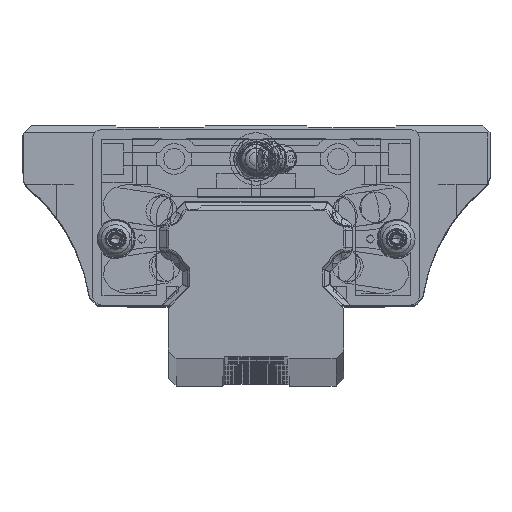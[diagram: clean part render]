
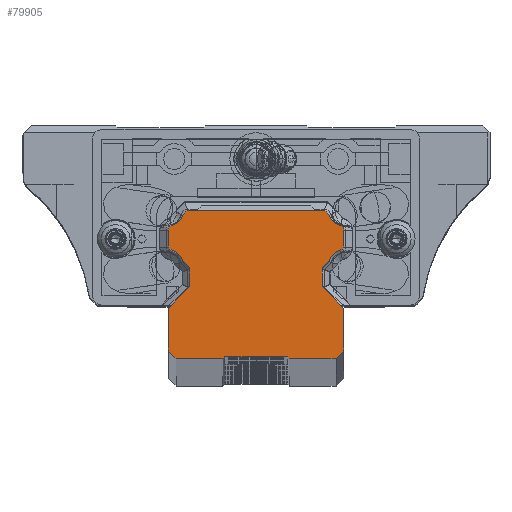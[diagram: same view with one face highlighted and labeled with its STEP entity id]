
A CAD part, top view. The second image highlights one B-rep face of the part: STEP entity #79905.
In plain terms, the highlighted planar face has unit normal (0, 0, 1).
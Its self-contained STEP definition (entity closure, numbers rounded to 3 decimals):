
#74661=DIRECTION('',(0.,-1.,0.));
#74662=VECTOR('',#74661,4.85);
#74663=CARTESIAN_POINT('',(-17.,-7.65,500.));
#74664=LINE('',#74663,#74662);
#74673=DIRECTION('',(0.,-1.,0.));
#74674=VECTOR('',#74673,11.);
#74675=CARTESIAN_POINT('',(-22.5,-18.,500.));
#74676=LINE('',#74675,#74674);
#74685=DIRECTION('',(1.,0.,0.));
#74686=VECTOR('',#74685,12.);
#74687=CARTESIAN_POINT('',(-20.5,-31.,500.));
#74688=LINE('',#74687,#74686);
#76061=DIRECTION('',(0.,-1.,0.));
#76062=VECTOR('',#76061,3.955);
#76063=CARTESIAN_POINT('',(-22.5,1.977,500.));
#76064=LINE('',#76063,#76062);
#76197=DIRECTION('',(-0.707,0.707,0.));
#76198=VECTOR('',#76197,2.29);
#76199=CARTESIAN_POINT('',(-17.,-7.65,500.));
#76200=LINE('',#76199,#76198);
#76201=CARTESIAN_POINT('',(-22.664,-7.164,500.));
#76202=DIRECTION('',(0.,0.,1.));
#76203=DIRECTION('',(0.963,0.27,0.));
#76204=AXIS2_PLACEMENT_3D('',#76201,#76202,#76203);
#76206=CARTESIAN_POINT('',(-21.35,-1.977,500.));
#76207=DIRECTION('',(0.,0.,-1.));
#76208=DIRECTION('',(-0.246,-0.969,0.));
#76209=AXIS2_PLACEMENT_3D('',#76206,#76207,#76208);
#76211=CARTESIAN_POINT('',(-21.35,1.977,500.));
#76212=DIRECTION('',(0.,0.,-1.));
#76213=DIRECTION('',(-1.,0.,0.));
#76214=AXIS2_PLACEMENT_3D('',#76211,#76212,#76213);
#76216=CARTESIAN_POINT('',(-22.664,7.164,500.));
#76217=DIRECTION('',(0.,0.,1.));
#76218=DIRECTION('',(0.246,-0.969,0.));
#76219=AXIS2_PLACEMENT_3D('',#76216,#76217,#76218);
#76221=DIRECTION('',(0.707,0.707,0.));
#76222=VECTOR('',#76221,1.371);
#76223=CARTESIAN_POINT('',(-18.619,6.031,500.));
#76224=LINE('',#76223,#76222);
#76225=DIRECTION('',(1.,0.,0.));
#76226=VECTOR('',#76225,35.3);
#76227=CARTESIAN_POINT('',(-17.65,7.,500.));
#76228=LINE('',#76227,#76226);
#76229=DIRECTION('',(0.707,-0.707,0.));
#76230=VECTOR('',#76229,1.371);
#76231=CARTESIAN_POINT('',(17.65,7.,500.));
#76232=LINE('',#76231,#76230);
#76233=CARTESIAN_POINT('',(22.664,7.164,500.));
#76234=DIRECTION('',(0.,0.,1.));
#76235=DIRECTION('',(-0.963,-0.27,0.));
#76236=AXIS2_PLACEMENT_3D('',#76233,#76234,#76235);
#76238=CARTESIAN_POINT('',(21.35,1.977,500.));
#76239=DIRECTION('',(0.,0.,-1.));
#76240=DIRECTION('',(0.246,0.969,0.));
#76241=AXIS2_PLACEMENT_3D('',#76238,#76239,#76240);
#76243=CARTESIAN_POINT('',(21.35,-1.977,500.));
#76244=DIRECTION('',(0.,0.,-1.));
#76245=DIRECTION('',(1.,0.,0.));
#76246=AXIS2_PLACEMENT_3D('',#76243,#76244,#76245);
#76248=CARTESIAN_POINT('',(22.664,-7.164,500.));
#76249=DIRECTION('',(0.,0.,1.));
#76250=DIRECTION('',(-0.246,0.969,0.));
#76251=AXIS2_PLACEMENT_3D('',#76248,#76249,#76250);
#76253=DIRECTION('',(-0.707,-0.707,0.));
#76254=VECTOR('',#76253,2.29);
#76255=CARTESIAN_POINT('',(18.619,-6.031,500.));
#76256=LINE('',#76255,#76254);
#76257=DIRECTION('',(0.707,-0.707,0.));
#76258=VECTOR('',#76257,7.778);
#76259=CARTESIAN_POINT('',(17.,-12.5,500.));
#76260=LINE('',#76259,#76258);
#76261=DIRECTION('',(-0.707,-0.707,0.));
#76262=VECTOR('',#76261,2.828);
#76263=CARTESIAN_POINT('',(22.5,-29.,500.));
#76264=LINE('',#76263,#76262);
#76265=DIRECTION('',(-0.707,0.707,0.));
#76266=VECTOR('',#76265,0.707);
#76267=CARTESIAN_POINT('',(8.5,-31.,500.));
#76268=LINE('',#76267,#76266);
#76269=DIRECTION('',(-1.,0.,0.));
#76270=VECTOR('',#76269,16.);
#76271=CARTESIAN_POINT('',(8.,-30.5,500.));
#76272=LINE('',#76271,#76270);
#76273=DIRECTION('',(-0.707,-0.707,0.));
#76274=VECTOR('',#76273,0.707);
#76275=CARTESIAN_POINT('',(-8.,-30.5,500.));
#76276=LINE('',#76275,#76274);
#76277=DIRECTION('',(-0.707,0.707,0.));
#76278=VECTOR('',#76277,2.828);
#76279=CARTESIAN_POINT('',(-20.5,-31.,500.));
#76280=LINE('',#76279,#76278);
#76281=DIRECTION('',(0.707,0.707,0.));
#76282=VECTOR('',#76281,7.778);
#76283=CARTESIAN_POINT('',(-22.5,-18.,500.));
#76284=LINE('',#76283,#76282);
#76301=DIRECTION('',(0.,1.,0.));
#76302=VECTOR('',#76301,3.955);
#76303=CARTESIAN_POINT('',(22.5,-1.977,500.));
#76304=LINE('',#76303,#76302);
#76321=DIRECTION('',(0.,1.,0.));
#76322=VECTOR('',#76321,4.85);
#76323=CARTESIAN_POINT('',(17.,-12.5,500.));
#76324=LINE('',#76323,#76322);
#76333=DIRECTION('',(0.,1.,0.));
#76334=VECTOR('',#76333,11.);
#76335=CARTESIAN_POINT('',(22.5,-29.,500.));
#76336=LINE('',#76335,#76334);
#76345=DIRECTION('',(1.,0.,0.));
#76346=VECTOR('',#76345,12.);
#76347=CARTESIAN_POINT('',(8.5,-31.,500.));
#76348=LINE('',#76347,#76346);
#77357=CARTESIAN_POINT('',(-17.,-7.65,500.));
#77358=CARTESIAN_POINT('',(-18.619,-6.031,500.));
#77359=VERTEX_POINT('',#77357);
#77360=VERTEX_POINT('',#77358);
#77361=CARTESIAN_POINT('',(-21.632,-3.092,500.));
#77362=VERTEX_POINT('',#77361);
#77363=CARTESIAN_POINT('',(-22.5,-1.977,500.));
#77364=VERTEX_POINT('',#77363);
#77365=CARTESIAN_POINT('',(-22.5,1.977,500.));
#77366=VERTEX_POINT('',#77365);
#77367=CARTESIAN_POINT('',(-21.632,3.092,500.));
#77368=VERTEX_POINT('',#77367);
#77369=CARTESIAN_POINT('',(-18.619,6.031,500.));
#77370=VERTEX_POINT('',#77369);
#77371=CARTESIAN_POINT('',(-17.65,7.,500.));
#77372=VERTEX_POINT('',#77371);
#77373=CARTESIAN_POINT('',(17.65,7.,500.));
#77374=VERTEX_POINT('',#77373);
#77415=CARTESIAN_POINT('',(18.619,6.031,500.));
#77416=VERTEX_POINT('',#77415);
#77417=CARTESIAN_POINT('',(21.632,3.092,500.));
#77418=VERTEX_POINT('',#77417);
#77419=CARTESIAN_POINT('',(22.5,1.977,500.));
#77420=VERTEX_POINT('',#77419);
#77421=CARTESIAN_POINT('',(22.5,-1.977,500.));
#77422=VERTEX_POINT('',#77421);
#77423=CARTESIAN_POINT('',(21.632,-3.092,500.));
#77424=VERTEX_POINT('',#77423);
#77425=CARTESIAN_POINT('',(18.619,-6.031,500.));
#77426=VERTEX_POINT('',#77425);
#77427=CARTESIAN_POINT('',(17.,-7.65,500.));
#77428=VERTEX_POINT('',#77427);
#77429=CARTESIAN_POINT('',(17.,-12.5,500.));
#77430=VERTEX_POINT('',#77429);
#77431=CARTESIAN_POINT('',(22.5,-18.,500.));
#77432=VERTEX_POINT('',#77431);
#77433=CARTESIAN_POINT('',(22.5,-29.,500.));
#77434=VERTEX_POINT('',#77433);
#77435=CARTESIAN_POINT('',(20.5,-31.,500.));
#77436=VERTEX_POINT('',#77435);
#77437=CARTESIAN_POINT('',(8.5,-31.,500.));
#77438=VERTEX_POINT('',#77437);
#77439=CARTESIAN_POINT('',(8.,-30.5,500.));
#77440=VERTEX_POINT('',#77439);
#77441=CARTESIAN_POINT('',(-8.,-30.5,500.));
#77442=VERTEX_POINT('',#77441);
#77483=CARTESIAN_POINT('',(-8.5,-31.,500.));
#77484=VERTEX_POINT('',#77483);
#77485=CARTESIAN_POINT('',(-20.5,-31.,500.));
#77486=VERTEX_POINT('',#77485);
#77487=CARTESIAN_POINT('',(-22.5,-29.,500.));
#77488=VERTEX_POINT('',#77487);
#77489=CARTESIAN_POINT('',(-22.5,-18.,500.));
#77490=VERTEX_POINT('',#77489);
#77491=CARTESIAN_POINT('',(-17.,-12.5,500.));
#77492=VERTEX_POINT('',#77491);
#79858=CARTESIAN_POINT('',(0.,0.,500.));
#79859=DIRECTION('',(0.,0.,1.));
#79860=DIRECTION('',(1.,0.,0.));
#79861=AXIS2_PLACEMENT_3D('',#79858,#79859,#79860);
#79862=PLANE('',#79861);
#79863=ORIENTED_EDGE('',*,*,#78088,.T.);
#79864=ORIENTED_EDGE('',*,*,#79762,.T.);
#79865=ORIENTED_EDGE('',*,*,#79748,.T.);
#79866=ORIENTED_EDGE('',*,*,#79733,.F.);
#79867=ORIENTED_EDGE('',*,*,#79718,.T.);
#79868=ORIENTED_EDGE('',*,*,#79703,.T.);
#79869=ORIENTED_EDGE('',*,*,#79688,.T.);
#79870=ORIENTED_EDGE('',*,*,#78804,.T.);
#79872=ORIENTED_EDGE('',*,*,#79871,.T.);
#79874=ORIENTED_EDGE('',*,*,#79873,.T.);
#79876=ORIENTED_EDGE('',*,*,#79875,.T.);
#79878=ORIENTED_EDGE('',*,*,#79877,.F.);
#79880=ORIENTED_EDGE('',*,*,#79879,.T.);
#79882=ORIENTED_EDGE('',*,*,#79881,.T.);
#79884=ORIENTED_EDGE('',*,*,#79883,.T.);
#79886=ORIENTED_EDGE('',*,*,#79885,.F.);
#79888=ORIENTED_EDGE('',*,*,#79887,.T.);
#79890=ORIENTED_EDGE('',*,*,#79889,.F.);
#79892=ORIENTED_EDGE('',*,*,#79891,.T.);
#79894=ORIENTED_EDGE('',*,*,#79893,.F.);
#79895=ORIENTED_EDGE('',*,*,#79849,.T.);
#79896=ORIENTED_EDGE('',*,*,#78247,.T.);
#79897=ORIENTED_EDGE('',*,*,#78180,.T.);
#79898=ORIENTED_EDGE('',*,*,#78163,.F.);
#79899=ORIENTED_EDGE('',*,*,#78148,.T.);
#79900=ORIENTED_EDGE('',*,*,#78133,.F.);
#79901=ORIENTED_EDGE('',*,*,#78118,.T.);
#79902=ORIENTED_EDGE('',*,*,#78103,.F.);
#79903=EDGE_LOOP('',(#79863,#79864,#79865,#79866,#79867,#79868,#79869,#79870,
#79872,#79874,#79876,#79878,#79880,#79882,#79884,#79886,#79888,#79890,#79892,
#79894,#79895,#79896,#79897,#79898,#79899,#79900,#79901,#79902));
#79904=FACE_OUTER_BOUND('',#79903,.F.);
#79905=ADVANCED_FACE('',(#79904),#79862,.T.);
#76205=CIRCLE('',#76204,4.2);
#76210=CIRCLE('',#76209,1.15);
#76215=CIRCLE('',#76214,1.15);
#76220=CIRCLE('',#76219,4.2);
#76237=CIRCLE('',#76236,4.2);
#76242=CIRCLE('',#76241,1.15);
#76247=CIRCLE('',#76246,1.15);
#76252=CIRCLE('',#76251,4.2);
#78088=EDGE_CURVE('',#77359,#77360,#76200,.T.);
#78103=EDGE_CURVE('',#77359,#77492,#74664,.T.);
#78118=EDGE_CURVE('',#77490,#77492,#76284,.T.);
#78133=EDGE_CURVE('',#77490,#77488,#74676,.T.);
#78148=EDGE_CURVE('',#77486,#77488,#76280,.T.);
#78163=EDGE_CURVE('',#77486,#77484,#74688,.T.);
#78180=EDGE_CURVE('',#77442,#77484,#76276,.T.);
#78247=EDGE_CURVE('',#77440,#77442,#76272,.T.);
#78804=EDGE_CURVE('',#77372,#77374,#76228,.T.);
#79688=EDGE_CURVE('',#77370,#77372,#76224,.T.);
#79703=EDGE_CURVE('',#77368,#77370,#76220,.T.);
#79718=EDGE_CURVE('',#77366,#77368,#76215,.T.);
#79733=EDGE_CURVE('',#77366,#77364,#76064,.T.);
#79748=EDGE_CURVE('',#77362,#77364,#76210,.T.);
#79762=EDGE_CURVE('',#77360,#77362,#76205,.T.);
#79849=EDGE_CURVE('',#77438,#77440,#76268,.T.);
#79871=EDGE_CURVE('',#77374,#77416,#76232,.T.);
#79873=EDGE_CURVE('',#77416,#77418,#76237,.T.);
#79875=EDGE_CURVE('',#77418,#77420,#76242,.T.);
#79877=EDGE_CURVE('',#77422,#77420,#76304,.T.);
#79879=EDGE_CURVE('',#77422,#77424,#76247,.T.);
#79881=EDGE_CURVE('',#77424,#77426,#76252,.T.);
#79883=EDGE_CURVE('',#77426,#77428,#76256,.T.);
#79885=EDGE_CURVE('',#77430,#77428,#76324,.T.);
#79887=EDGE_CURVE('',#77430,#77432,#76260,.T.);
#79889=EDGE_CURVE('',#77434,#77432,#76336,.T.);
#79891=EDGE_CURVE('',#77434,#77436,#76264,.T.);
#79893=EDGE_CURVE('',#77438,#77436,#76348,.T.);
